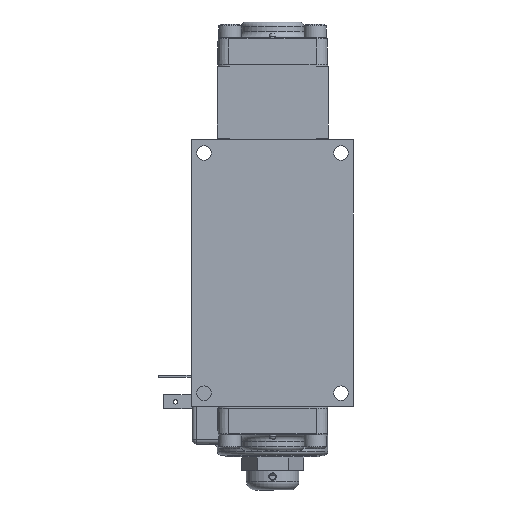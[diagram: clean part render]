
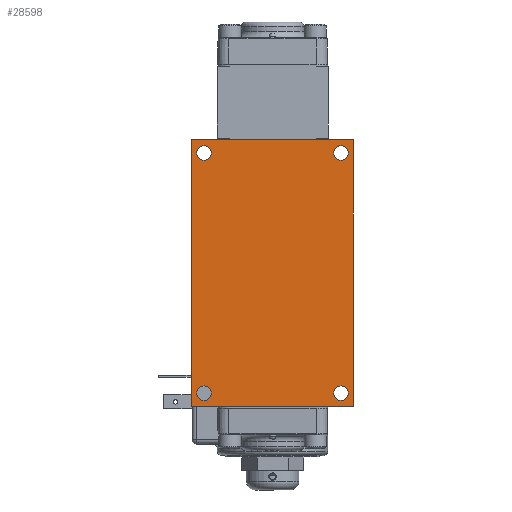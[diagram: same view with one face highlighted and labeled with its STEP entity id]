
A CAD part, front view. The second image highlights one B-rep face of the part: STEP entity #28598.
In plain terms, the highlighted planar face has unit normal (0, -1, 0).
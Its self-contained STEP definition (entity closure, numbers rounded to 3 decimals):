
#749=FACE_BOUND('',#4340,.T.);
#750=FACE_BOUND('',#4341,.T.);
#751=FACE_BOUND('',#4342,.T.);
#752=FACE_BOUND('',#4343,.T.);
#1314=PLANE('',#30925);
#2585=FACE_OUTER_BOUND('',#4339,.T.);
#4339=EDGE_LOOP('',(#22294,#22295,#22296,#22297));
#4340=EDGE_LOOP('',(#22298));
#4341=EDGE_LOOP('',(#22299));
#4342=EDGE_LOOP('',(#22300));
#4343=EDGE_LOOP('',(#22301));
#6516=LINE('',#45030,#8600);
#6539=LINE('',#45089,#8623);
#6751=LINE('',#46109,#8835);
#6993=LINE('',#47529,#9077);
#8600=VECTOR('',#35076,1.);
#8623=VECTOR('',#35141,1.);
#8835=VECTOR('',#35523,1.);
#9077=VECTOR('',#35915,1.);
#10716=CIRCLE('',#30893,0.258);
#10717=CIRCLE('',#30895,0.258);
#10718=CIRCLE('',#30897,0.258);
#10719=CIRCLE('',#30899,0.258);
#12160=VERTEX_POINT('',#45027);
#12161=VERTEX_POINT('',#45029);
#12175=VERTEX_POINT('',#45086);
#12176=VERTEX_POINT('',#45088);
#12704=VERTEX_POINT('',#48443);
#12705=VERTEX_POINT('',#48447);
#12706=VERTEX_POINT('',#48451);
#12707=VERTEX_POINT('',#48455);
#15231=EDGE_CURVE('',#12160,#12161,#6516,.T.);
#15261=EDGE_CURVE('',#12175,#12176,#6539,.T.);
#15537=EDGE_CURVE('',#12161,#12175,#6751,.T.);
#15873=EDGE_CURVE('',#12176,#12160,#6993,.T.);
#16062=EDGE_CURVE('',#12704,#12704,#10716,.T.);
#16064=EDGE_CURVE('',#12705,#12705,#10717,.T.);
#16066=EDGE_CURVE('',#12706,#12706,#10718,.T.);
#16068=EDGE_CURVE('',#12707,#12707,#10719,.T.);
#22294=ORIENTED_EDGE('',*,*,#15537,.F.);
#22295=ORIENTED_EDGE('',*,*,#15231,.F.);
#22296=ORIENTED_EDGE('',*,*,#15873,.F.);
#22297=ORIENTED_EDGE('',*,*,#15261,.F.);
#22298=ORIENTED_EDGE('',*,*,#16062,.T.);
#22299=ORIENTED_EDGE('',*,*,#16064,.T.);
#22300=ORIENTED_EDGE('',*,*,#16066,.T.);
#22301=ORIENTED_EDGE('',*,*,#16068,.T.);
#28598=ADVANCED_FACE('',(#2585,#749,#750,#751,#752),#1314,.F.);
#30893=AXIS2_PLACEMENT_3D('',#48445,#36304,#36305);
#30895=AXIS2_PLACEMENT_3D('',#48449,#36309,#36310);
#30897=AXIS2_PLACEMENT_3D('',#48453,#36314,#36315);
#30899=AXIS2_PLACEMENT_3D('',#48457,#36319,#36320);
#30925=AXIS2_PLACEMENT_3D('',#48508,#36386,#36387);
#35076=DIRECTION('',(-1.,0.,0.));
#35141=DIRECTION('',(1.,0.,0.));
#35523=DIRECTION('',(0.,0.,1.));
#35915=DIRECTION('',(0.,0.,-1.));
#36304=DIRECTION('center_axis',(0.,1.,0.));
#36305=DIRECTION('ref_axis',(-1.,0.,0.));
#36309=DIRECTION('center_axis',(0.,1.,0.));
#36310=DIRECTION('ref_axis',(-1.,0.,0.));
#36314=DIRECTION('center_axis',(0.,1.,0.));
#36315=DIRECTION('ref_axis',(-1.,0.,0.));
#36319=DIRECTION('center_axis',(0.,1.,0.));
#36320=DIRECTION('ref_axis',(-1.,0.,0.));
#36386=DIRECTION('center_axis',(0.,1.,0.));
#36387=DIRECTION('ref_axis',(0.,0.,1.));
#45027=CARTESIAN_POINT('',(2.858,-1.636,-4.71));
#45029=CARTESIAN_POINT('',(-2.858,-1.636,-4.71));
#45030=CARTESIAN_POINT('',(2.858,-1.636,-4.71));
#45086=CARTESIAN_POINT('',(-2.858,-1.636,4.71));
#45088=CARTESIAN_POINT('',(2.858,-1.636,4.71));
#45089=CARTESIAN_POINT('',(-2.858,-1.636,4.71));
#46109=CARTESIAN_POINT('',(-2.858,-1.636,-4.71));
#47529=CARTESIAN_POINT('',(2.858,-1.636,4.71));
#48443=CARTESIAN_POINT('',(-2.163,-1.636,-4.247));
#48445=CARTESIAN_POINT('Origin',(-2.421,-1.636,-4.247));
#48447=CARTESIAN_POINT('',(-2.163,-1.636,4.247));
#48449=CARTESIAN_POINT('Origin',(-2.421,-1.636,4.247));
#48451=CARTESIAN_POINT('',(2.678,-1.636,-4.247));
#48453=CARTESIAN_POINT('Origin',(2.421,-1.636,-4.247));
#48455=CARTESIAN_POINT('',(2.678,-1.636,4.247));
#48457=CARTESIAN_POINT('Origin',(2.421,-1.636,4.247));
#48508=CARTESIAN_POINT('Origin',(0.,-1.636,0.));
